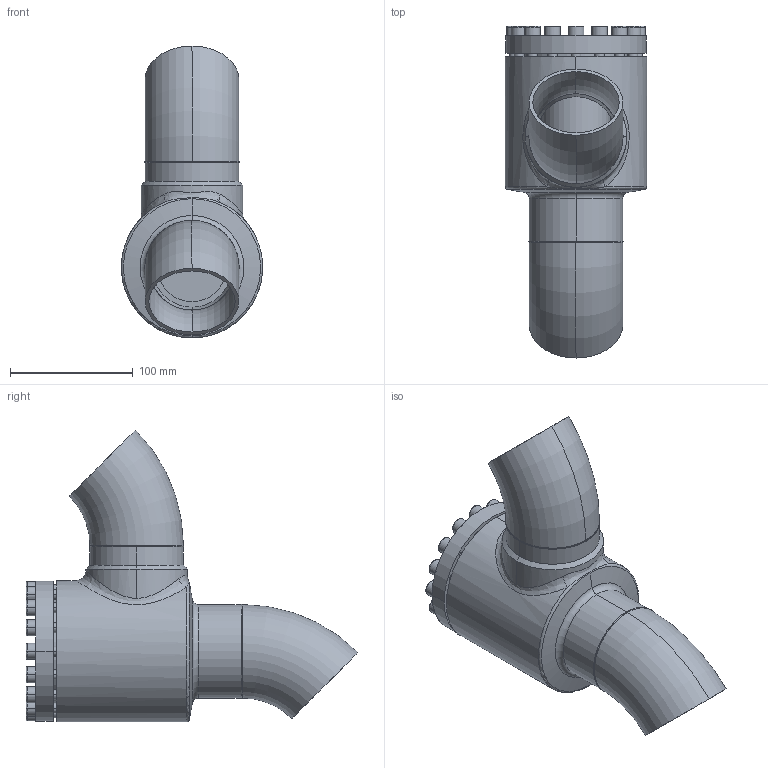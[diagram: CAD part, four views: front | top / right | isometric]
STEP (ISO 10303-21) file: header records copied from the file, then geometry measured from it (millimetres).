
FILE_DESCRIPTION (( 'STEP AP214' ), '1' );
FILE_NAME ('RV28300D17-DN065_R1_PS40.STEP', '2006-04-28T05:15:47', ( 'Herr Grams' ), ( 'AWP GmbH' ), 'SwSTEP 2.0', 'SolidWorks 2002296', '' );
FILE_SCHEMA (( 'AUTOMOTIVE_DESIGN' ));
Length unit declared in the file: millimetre
Products named in the file (9): RV28300D17-DN065_R1_PS40; Gehäuse-kpl16300-DN065_R1_Standard; Gehäuse16400-DN065_Standard; Rohrbogen 45°_Rohrbogen-DN065-45°; bead-DN065-3_Standard; bead-DN065-2_Standard; RV28300K17_Deck+Schr-DN065_Standard; Deckel28300K17-DN65_Standard; Zylinderschraube-DIN912_M 8x 25
Assembly tree (24 placements, depth 3):
  RV28300D17-DN065_R1_PS40
    RV28300K17_Deck+Schr-DN065_Standard
      Zylinderschraube-DIN912_M 8x 25  x16
      Deckel28300K17-DN65_Standard
    Gehäuse-kpl16300-DN065_R1_Standard
      Rohrbogen 45°_Rohrbogen-DN065-45°  x2
      bead-DN065-3_Standard
      Gehäuse16400-DN065_Standard
      bead-DN065-2_Standard
Bounding box: 115 x 270.08 x 237.58 mm (x, y, z)
Volume: 895881.3 mm3; surface area: 253653.4 mm2
Topology: 22 solids, 22 shells, 400 faces, 874 edges, 555 vertices
Faces by surface type: plane 180, cylinder 124, torus 44, cone 42, bspline 10
Entity records: 15263 total; most frequent: CARTESIAN_POINT 11717, DIRECTION 698, ORIENTED_EDGE 584, AXIS2_PLACEMENT_3D 301, EDGE_CURVE 292, VERTEX_POINT 187, EDGE_LOOP 173, CIRCLE 158
